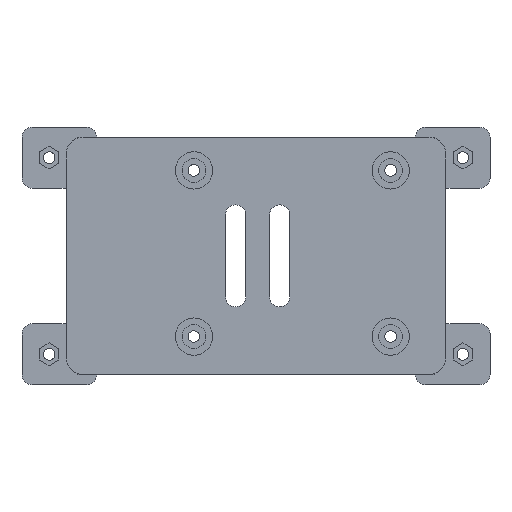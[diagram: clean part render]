
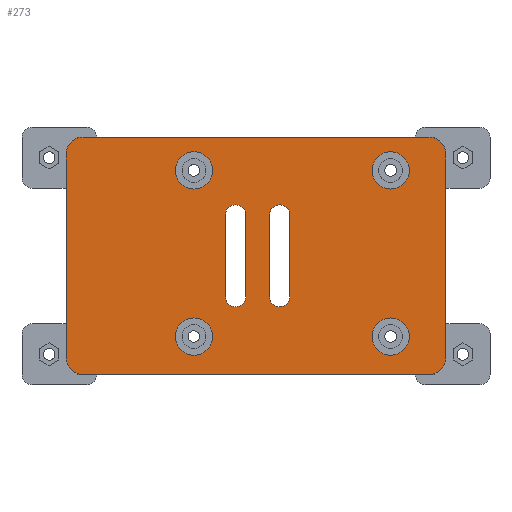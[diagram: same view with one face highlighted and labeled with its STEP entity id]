
A CAD part, top view. The second image highlights one B-rep face of the part: STEP entity #273.
In plain terms, the highlighted planar face has unit normal (0, 0, 1).
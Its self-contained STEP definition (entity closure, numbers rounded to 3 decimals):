
#21 = EDGE_CURVE('',#22,#24,#26,.T.);
#22 = VERTEX_POINT('',#23);
#23 = CARTESIAN_POINT('',(-56.,-30.,48.));
#24 = VERTEX_POINT('',#25);
#25 = CARTESIAN_POINT('',(-56.,30.,48.));
#26 = LINE('',#27,#28);
#27 = CARTESIAN_POINT('',(-56.,-35.,48.));
#28 = VECTOR('',#29,1.);
#29 = DIRECTION('',(0.,1.,0.));
#71 = VERTEX_POINT('',#72);
#72 = CARTESIAN_POINT('',(-51.,-35.,48.));
#78 = EDGE_CURVE('',#22,#71,#79,.T.);
#79 = CIRCLE('',#80,5.);
#80 = AXIS2_PLACEMENT_3D('',#81,#82,#83);
#81 = CARTESIAN_POINT('',(-51.,-30.,48.));
#82 = DIRECTION('',(-0.,0.,1.));
#83 = DIRECTION('',(0.,-1.,0.));
#104 = VERTEX_POINT('',#105);
#105 = CARTESIAN_POINT('',(-51.,35.,48.));
#111 = EDGE_CURVE('',#24,#104,#112,.T.);
#112 = CIRCLE('',#113,5.);
#113 = AXIS2_PLACEMENT_3D('',#114,#115,#116);
#114 = CARTESIAN_POINT('',(-51.,30.,48.));
#115 = DIRECTION('',(-0.,-0.,-1.));
#116 = DIRECTION('',(0.,-1.,0.));
#136 = EDGE_CURVE('',#71,#137,#139,.T.);
#137 = VERTEX_POINT('',#138);
#138 = CARTESIAN_POINT('',(51.,-35.,48.));
#139 = LINE('',#140,#141);
#140 = CARTESIAN_POINT('',(-56.,-35.,48.));
#141 = VECTOR('',#142,1.);
#142 = DIRECTION('',(1.,0.,0.));
#167 = EDGE_CURVE('',#104,#168,#170,.T.);
#168 = VERTEX_POINT('',#169);
#169 = CARTESIAN_POINT('',(51.,35.,48.));
#170 = LINE('',#171,#172);
#171 = CARTESIAN_POINT('',(-56.,35.,48.));
#172 = VECTOR('',#173,1.);
#173 = DIRECTION('',(1.,0.,0.));
#199 = EDGE_CURVE('',#200,#137,#202,.T.);
#200 = VERTEX_POINT('',#201);
#201 = CARTESIAN_POINT('',(56.,-30.,48.));
#202 = CIRCLE('',#203,5.);
#203 = AXIS2_PLACEMENT_3D('',#204,#205,#206);
#204 = CARTESIAN_POINT('',(51.,-30.,48.));
#205 = DIRECTION('',(-0.,-0.,-1.));
#206 = DIRECTION('',(0.,-1.,0.));
#232 = EDGE_CURVE('',#233,#168,#235,.T.);
#233 = VERTEX_POINT('',#234);
#234 = CARTESIAN_POINT('',(56.,30.,48.));
#235 = CIRCLE('',#236,5.);
#236 = AXIS2_PLACEMENT_3D('',#237,#238,#239);
#237 = CARTESIAN_POINT('',(51.,30.,48.));
#238 = DIRECTION('',(-0.,0.,1.));
#239 = DIRECTION('',(0.,-1.,0.));
#255 = EDGE_CURVE('',#200,#233,#256,.T.);
#256 = LINE('',#257,#258);
#257 = CARTESIAN_POINT('',(56.,-35.,48.));
#258 = VECTOR('',#259,1.);
#259 = DIRECTION('',(0.,1.,0.));
#273 = ADVANCED_FACE('',(#274,#284,#295,#365,#435,#446,#457),#468,.T.);
#274 = FACE_BOUND('',#275,.T.);
#275 = EDGE_LOOP('',(#276,#277,#278,#279,#280,#281,#282,#283));
#276 = ORIENTED_EDGE('',*,*,#21,.F.);
#277 = ORIENTED_EDGE('',*,*,#78,.T.);
#278 = ORIENTED_EDGE('',*,*,#136,.T.);
#279 = ORIENTED_EDGE('',*,*,#199,.F.);
#280 = ORIENTED_EDGE('',*,*,#255,.T.);
#281 = ORIENTED_EDGE('',*,*,#232,.T.);
#282 = ORIENTED_EDGE('',*,*,#167,.F.);
#283 = ORIENTED_EDGE('',*,*,#111,.F.);
#284 = FACE_BOUND('',#285,.T.);
#285 = EDGE_LOOP('',(#286));
#286 = ORIENTED_EDGE('',*,*,#287,.F.);
#287 = EDGE_CURVE('',#288,#288,#290,.T.);
#288 = VERTEX_POINT('',#289);
#289 = CARTESIAN_POINT('',(-12.794,-23.838,48.));
#290 = CIRCLE('',#291,5.5);
#291 = AXIS2_PLACEMENT_3D('',#292,#293,#294);
#292 = CARTESIAN_POINT('',(-18.294,-23.838,48.));
#293 = DIRECTION('',(0.,0.,1.));
#294 = DIRECTION('',(1.,0.,0.));
#295 = FACE_BOUND('',#296,.T.);
#296 = EDGE_LOOP('',(#297,#308,#316,#325,#333,#342,#350,#359));
#297 = ORIENTED_EDGE('',*,*,#298,.F.);
#298 = EDGE_CURVE('',#299,#301,#303,.T.);
#299 = VERTEX_POINT('',#300);
#300 = CARTESIAN_POINT('',(-9.,-12.1,48.));
#301 = VERTEX_POINT('',#302);
#302 = CARTESIAN_POINT('',(-6.1,-15.,48.));
#303 = CIRCLE('',#304,2.9);
#304 = AXIS2_PLACEMENT_3D('',#305,#306,#307);
#305 = CARTESIAN_POINT('',(-6.1,-12.1,48.));
#306 = DIRECTION('',(0.,0.,1.));
#307 = DIRECTION('',(-1.,0.,0.));
#308 = ORIENTED_EDGE('',*,*,#309,.T.);
#309 = EDGE_CURVE('',#299,#310,#312,.T.);
#310 = VERTEX_POINT('',#311);
#311 = CARTESIAN_POINT('',(-9.,12.1,48.));
#312 = LINE('',#313,#314);
#313 = CARTESIAN_POINT('',(-9.,-25.,48.));
#314 = VECTOR('',#315,1.);
#315 = DIRECTION('',(0.,1.,0.));
#316 = ORIENTED_EDGE('',*,*,#317,.F.);
#317 = EDGE_CURVE('',#318,#310,#320,.T.);
#318 = VERTEX_POINT('',#319);
#319 = CARTESIAN_POINT('',(-6.1,15.,48.));
#320 = CIRCLE('',#321,2.9);
#321 = AXIS2_PLACEMENT_3D('',#322,#323,#324);
#322 = CARTESIAN_POINT('',(-6.1,12.1,48.));
#323 = DIRECTION('',(0.,0.,1.));
#324 = DIRECTION('',(-1.,0.,0.));
#325 = ORIENTED_EDGE('',*,*,#326,.F.);
#326 = EDGE_CURVE('',#327,#318,#329,.T.);
#327 = VERTEX_POINT('',#328);
#328 = CARTESIAN_POINT('',(-5.9,15.,48.));
#329 = LINE('',#330,#331);
#330 = CARTESIAN_POINT('',(-32.5,15.,48.));
#331 = VECTOR('',#332,1.);
#332 = DIRECTION('',(-1.,0.,0.));
#333 = ORIENTED_EDGE('',*,*,#334,.F.);
#334 = EDGE_CURVE('',#335,#327,#337,.T.);
#335 = VERTEX_POINT('',#336);
#336 = CARTESIAN_POINT('',(-3.,12.1,48.));
#337 = CIRCLE('',#338,2.9);
#338 = AXIS2_PLACEMENT_3D('',#339,#340,#341);
#339 = CARTESIAN_POINT('',(-5.9,12.1,48.));
#340 = DIRECTION('',(0.,0.,1.));
#341 = DIRECTION('',(1.,0.,0.));
#342 = ORIENTED_EDGE('',*,*,#343,.F.);
#343 = EDGE_CURVE('',#344,#335,#346,.T.);
#344 = VERTEX_POINT('',#345);
#345 = CARTESIAN_POINT('',(-3.,-12.1,48.));
#346 = LINE('',#347,#348);
#347 = CARTESIAN_POINT('',(-3.,-25.,48.));
#348 = VECTOR('',#349,1.);
#349 = DIRECTION('',(0.,1.,0.));
#350 = ORIENTED_EDGE('',*,*,#351,.F.);
#351 = EDGE_CURVE('',#352,#344,#354,.T.);
#352 = VERTEX_POINT('',#353);
#353 = CARTESIAN_POINT('',(-5.9,-15.,48.));
#354 = CIRCLE('',#355,2.9);
#355 = AXIS2_PLACEMENT_3D('',#356,#357,#358);
#356 = CARTESIAN_POINT('',(-5.9,-12.1,48.));
#357 = DIRECTION('',(0.,0.,1.));
#358 = DIRECTION('',(1.,0.,0.));
#359 = ORIENTED_EDGE('',*,*,#360,.T.);
#360 = EDGE_CURVE('',#352,#301,#361,.T.);
#361 = LINE('',#362,#363);
#362 = CARTESIAN_POINT('',(-32.5,-15.,48.));
#363 = VECTOR('',#364,1.);
#364 = DIRECTION('',(-1.,0.,0.));
#365 = FACE_BOUND('',#366,.T.);
#366 = EDGE_LOOP('',(#367,#378,#386,#395,#403,#412,#420,#429));
#367 = ORIENTED_EDGE('',*,*,#368,.F.);
#368 = EDGE_CURVE('',#369,#371,#373,.T.);
#369 = VERTEX_POINT('',#370);
#370 = CARTESIAN_POINT('',(4.,-12.1,48.));
#371 = VERTEX_POINT('',#372);
#372 = CARTESIAN_POINT('',(6.9,-15.,48.));
#373 = CIRCLE('',#374,2.9);
#374 = AXIS2_PLACEMENT_3D('',#375,#376,#377);
#375 = CARTESIAN_POINT('',(6.9,-12.1,48.));
#376 = DIRECTION('',(0.,0.,1.));
#377 = DIRECTION('',(-1.,0.,0.));
#378 = ORIENTED_EDGE('',*,*,#379,.T.);
#379 = EDGE_CURVE('',#369,#380,#382,.T.);
#380 = VERTEX_POINT('',#381);
#381 = CARTESIAN_POINT('',(4.,12.1,48.));
#382 = LINE('',#383,#384);
#383 = CARTESIAN_POINT('',(4.,-25.,48.));
#384 = VECTOR('',#385,1.);
#385 = DIRECTION('',(0.,1.,0.));
#386 = ORIENTED_EDGE('',*,*,#387,.F.);
#387 = EDGE_CURVE('',#388,#380,#390,.T.);
#388 = VERTEX_POINT('',#389);
#389 = CARTESIAN_POINT('',(6.9,15.,48.));
#390 = CIRCLE('',#391,2.9);
#391 = AXIS2_PLACEMENT_3D('',#392,#393,#394);
#392 = CARTESIAN_POINT('',(6.9,12.1,48.));
#393 = DIRECTION('',(0.,0.,1.));
#394 = DIRECTION('',(-1.,0.,0.));
#395 = ORIENTED_EDGE('',*,*,#396,.F.);
#396 = EDGE_CURVE('',#397,#388,#399,.T.);
#397 = VERTEX_POINT('',#398);
#398 = CARTESIAN_POINT('',(7.1,15.,48.));
#399 = LINE('',#400,#401);
#400 = CARTESIAN_POINT('',(-26.,15.,48.));
#401 = VECTOR('',#402,1.);
#402 = DIRECTION('',(-1.,0.,0.));
#403 = ORIENTED_EDGE('',*,*,#404,.F.);
#404 = EDGE_CURVE('',#405,#397,#407,.T.);
#405 = VERTEX_POINT('',#406);
#406 = CARTESIAN_POINT('',(10.,12.1,48.));
#407 = CIRCLE('',#408,2.9);
#408 = AXIS2_PLACEMENT_3D('',#409,#410,#411);
#409 = CARTESIAN_POINT('',(7.1,12.1,48.));
#410 = DIRECTION('',(0.,0.,1.));
#411 = DIRECTION('',(1.,0.,0.));
#412 = ORIENTED_EDGE('',*,*,#413,.F.);
#413 = EDGE_CURVE('',#414,#405,#416,.T.);
#414 = VERTEX_POINT('',#415);
#415 = CARTESIAN_POINT('',(10.,-12.1,48.));
#416 = LINE('',#417,#418);
#417 = CARTESIAN_POINT('',(10.,-25.,48.));
#418 = VECTOR('',#419,1.);
#419 = DIRECTION('',(0.,1.,0.));
#420 = ORIENTED_EDGE('',*,*,#421,.F.);
#421 = EDGE_CURVE('',#422,#414,#424,.T.);
#422 = VERTEX_POINT('',#423);
#423 = CARTESIAN_POINT('',(7.1,-15.,48.));
#424 = CIRCLE('',#425,2.9);
#425 = AXIS2_PLACEMENT_3D('',#426,#427,#428);
#426 = CARTESIAN_POINT('',(7.1,-12.1,48.));
#427 = DIRECTION('',(0.,0.,1.));
#428 = DIRECTION('',(1.,0.,0.));
#429 = ORIENTED_EDGE('',*,*,#430,.T.);
#430 = EDGE_CURVE('',#422,#371,#431,.T.);
#431 = LINE('',#432,#433);
#432 = CARTESIAN_POINT('',(-26.,-15.,48.));
#433 = VECTOR('',#434,1.);
#434 = DIRECTION('',(-1.,0.,0.));
#435 = FACE_BOUND('',#436,.T.);
#436 = EDGE_LOOP('',(#437));
#437 = ORIENTED_EDGE('',*,*,#438,.F.);
#438 = EDGE_CURVE('',#439,#439,#441,.T.);
#439 = VERTEX_POINT('',#440);
#440 = CARTESIAN_POINT('',(45.206,-23.838,48.));
#441 = CIRCLE('',#442,5.5);
#442 = AXIS2_PLACEMENT_3D('',#443,#444,#445);
#443 = CARTESIAN_POINT('',(39.706,-23.838,48.));
#444 = DIRECTION('',(0.,0.,1.));
#445 = DIRECTION('',(1.,0.,0.));
#446 = FACE_BOUND('',#447,.T.);
#447 = EDGE_LOOP('',(#448));
#448 = ORIENTED_EDGE('',*,*,#449,.F.);
#449 = EDGE_CURVE('',#450,#450,#452,.T.);
#450 = VERTEX_POINT('',#451);
#451 = CARTESIAN_POINT('',(-12.794,25.162,48.));
#452 = CIRCLE('',#453,5.5);
#453 = AXIS2_PLACEMENT_3D('',#454,#455,#456);
#454 = CARTESIAN_POINT('',(-18.294,25.162,48.));
#455 = DIRECTION('',(0.,0.,1.));
#456 = DIRECTION('',(1.,0.,0.));
#457 = FACE_BOUND('',#458,.T.);
#458 = EDGE_LOOP('',(#459));
#459 = ORIENTED_EDGE('',*,*,#460,.F.);
#460 = EDGE_CURVE('',#461,#461,#463,.T.);
#461 = VERTEX_POINT('',#462);
#462 = CARTESIAN_POINT('',(45.206,25.162,48.));
#463 = CIRCLE('',#464,5.5);
#464 = AXIS2_PLACEMENT_3D('',#465,#466,#467);
#465 = CARTESIAN_POINT('',(39.706,25.162,48.));
#466 = DIRECTION('',(0.,0.,1.));
#467 = DIRECTION('',(1.,0.,0.));
#468 = PLANE('',#469);
#469 = AXIS2_PLACEMENT_3D('',#470,#471,#472);
#470 = CARTESIAN_POINT('',(-56.,-35.,48.));
#471 = DIRECTION('',(0.,0.,1.));
#472 = DIRECTION('',(1.,0.,0.));
